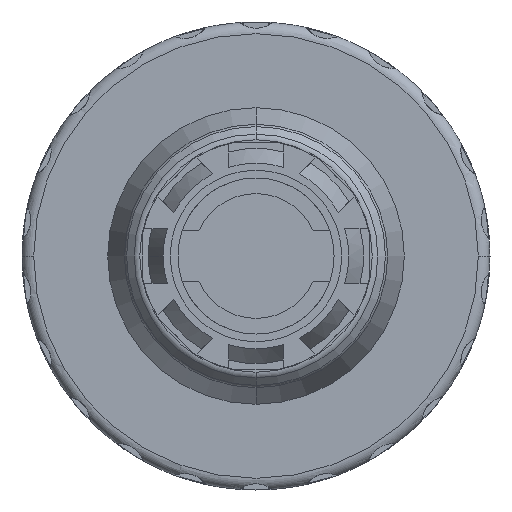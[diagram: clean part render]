
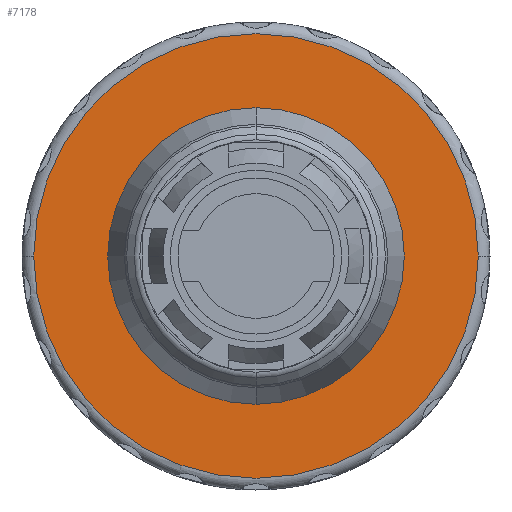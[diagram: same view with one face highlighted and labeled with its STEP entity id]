
A CAD part, front view. The second image highlights one B-rep face of the part: STEP entity #7178.
In plain terms, the highlighted planar face has unit normal (0, -1, 0).
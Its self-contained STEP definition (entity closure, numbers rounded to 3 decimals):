
#31 = EDGE_CURVE ( 'NONE', #4868, #4343, #83, .T. ) ;
#76 = CARTESIAN_POINT ( 'NONE',  ( 0., 22.9, 0. ) ) ;
#83 = CIRCLE ( 'NONE', #4317, 28.5 ) ;
#241 = CIRCLE ( 'NONE', #1210, 19.013 ) ;
#452 = ORIENTED_EDGE ( 'NONE', *, *, #3870, .F. ) ;
#810 = CARTESIAN_POINT ( 'NONE',  ( 0., 22.9, 0. ) ) ;
#898 = EDGE_LOOP ( 'NONE', ( #452, #5597 ) ) ;
#1210 = AXIS2_PLACEMENT_3D ( 'NONE', #1772, #3515, #2383 ) ;
#1215 = DIRECTION ( 'NONE',  ( 0., -1., 0. ) ) ;
#1217 = DIRECTION ( 'NONE',  ( -1., 0., 0. ) ) ;
#1277 = CARTESIAN_POINT ( 'NONE',  ( 28.5, 22.9, 0. ) ) ;
#1279 = DIRECTION ( 'NONE',  ( 0., -1., 0. ) ) ;
#1307 = CARTESIAN_POINT ( 'NONE',  ( 0., 22.9, -19.013 ) ) ;
#1545 = AXIS2_PLACEMENT_3D ( 'NONE', #810, #6651, #3571 ) ;
#1772 = CARTESIAN_POINT ( 'NONE',  ( 0., 22.9, 0. ) ) ;
#1915 = EDGE_CURVE ( 'NONE', #4343, #4868, #7124, .T. ) ;
#2356 = PLANE ( 'NONE',  #5826 ) ;
#2383 = DIRECTION ( 'NONE',  ( 1., 0., 0. ) ) ;
#2431 = VERTEX_POINT ( 'NONE', #2687 ) ;
#2455 = DIRECTION ( 'NONE',  ( 1., 0., 0. ) ) ;
#2463 = DIRECTION ( 'NONE',  ( -1., 0., 0. ) ) ;
#2582 = CARTESIAN_POINT ( 'NONE',  ( -28.5, 22.9, 0. ) ) ;
#2687 = CARTESIAN_POINT ( 'NONE',  ( 0., 22.9, 19.013 ) ) ;
#3371 = CARTESIAN_POINT ( 'NONE',  ( 0., 22.9, 0. ) ) ;
#3515 = DIRECTION ( 'NONE',  ( 0., -1., 0. ) ) ;
#3571 = DIRECTION ( 'NONE',  ( -1., 0., 0. ) ) ;
#3870 = EDGE_CURVE ( 'NONE', #2431, #6544, #241, .T. ) ;
#4085 = DIRECTION ( 'NONE',  ( 0., 1., 0. ) ) ;
#4297 = EDGE_LOOP ( 'NONE', ( #7502, #4313 ) ) ;
#4313 = ORIENTED_EDGE ( 'NONE', *, *, #1915, .T. ) ;
#4317 = AXIS2_PLACEMENT_3D ( 'NONE', #76, #1215, #2463 ) ;
#4343 = VERTEX_POINT ( 'NONE', #1277 ) ;
#4868 = VERTEX_POINT ( 'NONE', #2582 ) ;
#4871 = CIRCLE ( 'NONE', #6567, 19.013 ) ;
#5597 = ORIENTED_EDGE ( 'NONE', *, *, #5831, .F. ) ;
#5826 = AXIS2_PLACEMENT_3D ( 'NONE', #6875, #4085, #1217 ) ;
#5831 = EDGE_CURVE ( 'NONE', #6544, #2431, #4871, .T. ) ;
#6263 = FACE_OUTER_BOUND ( 'NONE', #4297, .T. ) ;
#6373 = FACE_BOUND ( 'NONE', #898, .T. ) ;
#6544 = VERTEX_POINT ( 'NONE', #1307 ) ;
#6567 = AXIS2_PLACEMENT_3D ( 'NONE', #3371, #1279, #2455 ) ;
#6651 = DIRECTION ( 'NONE',  ( 0., -1., 0. ) ) ;
#6875 = CARTESIAN_POINT ( 'NONE',  ( -30., 22.9, 0. ) ) ;
#7124 = CIRCLE ( 'NONE', #1545, 28.5 ) ;
#7178 = ADVANCED_FACE ( 'NONE', ( #6263, #6373 ), #2356, .F. ) ;
#7502 = ORIENTED_EDGE ( 'NONE', *, *, #31, .T. ) ;
